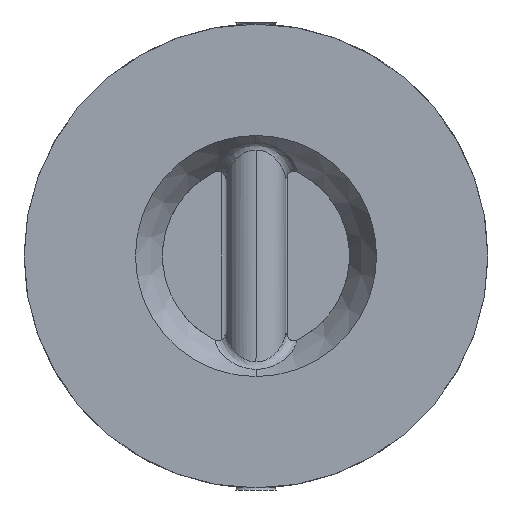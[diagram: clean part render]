
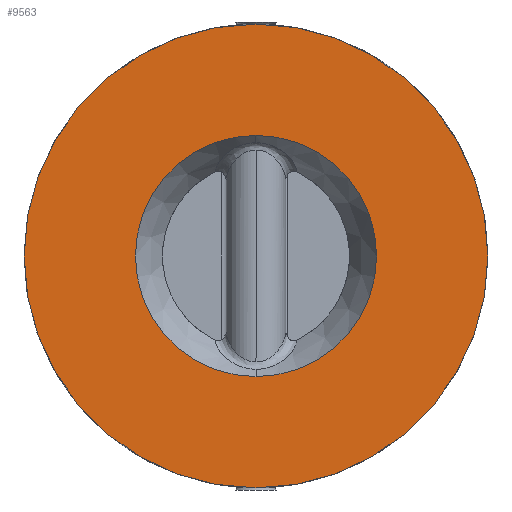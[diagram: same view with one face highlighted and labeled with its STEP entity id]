
A CAD part, front view. The second image highlights one B-rep face of the part: STEP entity #9563.
In plain terms, the highlighted planar face has unit normal (0, -1, 0).
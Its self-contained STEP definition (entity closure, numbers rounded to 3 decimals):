
#375 = ORIENTED_EDGE ( 'NONE', *, *, #5859, .T. ) ;
#603 = DIRECTION ( 'NONE',  ( 0., -1., 0. ) ) ;
#2177 = FACE_OUTER_BOUND ( 'NONE', #22608, .T. ) ;
#2402 = CARTESIAN_POINT ( 'NONE',  ( 0., 0., 0. ) ) ;
#2701 = PLANE ( 'NONE',  #3502 ) ;
#3502 = AXIS2_PLACEMENT_3D ( 'NONE', #9269, #603, #15940 ) ;
#4380 = EDGE_CURVE ( 'NONE', #26992, #11434, #22796, .T. ) ;
#4544 = DIRECTION ( 'NONE',  ( 0., 1., 0. ) ) ;
#4590 = DIRECTION ( 'NONE',  ( 0., 0., -1. ) ) ;
#5183 = CARTESIAN_POINT ( 'NONE',  ( 0., 0., 28.351 ) ) ;
#5341 = EDGE_LOOP ( 'NONE', ( #26363, #375 ) ) ;
#5859 = EDGE_CURVE ( 'NONE', #11434, #26992, #14231, .T. ) ;
#7251 = CIRCLE ( 'NONE', #23954, 54.5 ) ;
#7856 = AXIS2_PLACEMENT_3D ( 'NONE', #9276, #24631, #11528 ) ;
#9269 = CARTESIAN_POINT ( 'NONE',  ( 0., 0., 0. ) ) ;
#9276 = CARTESIAN_POINT ( 'NONE',  ( 0., 0., 0. ) ) ;
#9563 = ADVANCED_FACE ( 'NONE', ( #25474, #2177 ), #2701, .T. ) ;
#11086 = ORIENTED_EDGE ( 'NONE', *, *, #12063, .T. ) ;
#11434 = VERTEX_POINT ( 'NONE', #5183 ) ;
#11528 = DIRECTION ( 'NONE',  ( 0., 0., -1. ) ) ;
#11895 = CARTESIAN_POINT ( 'NONE',  ( 0., 0., -28.351 ) ) ;
#12063 = EDGE_CURVE ( 'NONE', #12454, #26522, #7251, .T. ) ;
#12454 = VERTEX_POINT ( 'NONE', #20953 ) ;
#13018 = DIRECTION ( 'NONE',  ( 0., -1., 0. ) ) ;
#13603 = ORIENTED_EDGE ( 'NONE', *, *, #17829, .T. ) ;
#14231 = CIRCLE ( 'NONE', #7856, 28.351 ) ;
#15940 = DIRECTION ( 'NONE',  ( 0., 0., -1. ) ) ;
#17445 = AXIS2_PLACEMENT_3D ( 'NONE', #2402, #17746, #4590 ) ;
#17698 = CARTESIAN_POINT ( 'NONE',  ( 0., 0., 0. ) ) ;
#17746 = DIRECTION ( 'NONE',  ( 0., -1., 0. ) ) ;
#17829 = EDGE_CURVE ( 'NONE', #26522, #12454, #28022, .T. ) ;
#19887 = DIRECTION ( 'NONE',  ( 0., 0., -1. ) ) ;
#20953 = CARTESIAN_POINT ( 'NONE',  ( 0., 0., 54.5 ) ) ;
#20994 = CARTESIAN_POINT ( 'NONE',  ( 0., 0., -54.5 ) ) ;
#22608 = EDGE_LOOP ( 'NONE', ( #13603, #11086 ) ) ;
#22796 = CIRCLE ( 'NONE', #24717, 28.351 ) ;
#23954 = AXIS2_PLACEMENT_3D ( 'NONE', #26116, #13018, #28322 ) ;
#24631 = DIRECTION ( 'NONE',  ( 0., 1., 0. ) ) ;
#24717 = AXIS2_PLACEMENT_3D ( 'NONE', #17698, #4544, #19887 ) ;
#25474 = FACE_BOUND ( 'NONE', #5341, .T. ) ;
#26116 = CARTESIAN_POINT ( 'NONE',  ( 0., 0., 0. ) ) ;
#26363 = ORIENTED_EDGE ( 'NONE', *, *, #4380, .T. ) ;
#26522 = VERTEX_POINT ( 'NONE', #20994 ) ;
#26992 = VERTEX_POINT ( 'NONE', #11895 ) ;
#28022 = CIRCLE ( 'NONE', #17445, 54.5 ) ;
#28322 = DIRECTION ( 'NONE',  ( 0., 0., -1. ) ) ;
